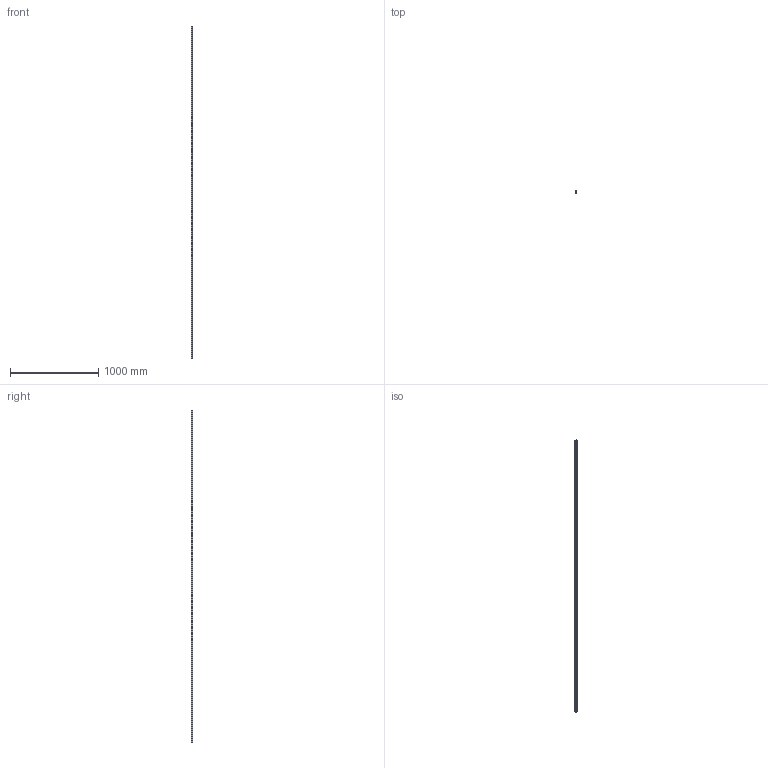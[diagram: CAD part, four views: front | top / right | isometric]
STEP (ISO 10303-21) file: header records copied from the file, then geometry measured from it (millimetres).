
FILE_DESCRIPTION (( 'STEP AP203' ), '1' );
FILE_NAME ('L1016.BL20-3760.step', '2019-06-12T11:58:27', ( '' ), ( '' ), 'SwSTEP 2.0', 'SolidWorks 2017', '' );
FILE_SCHEMA (( 'CONFIG_CONTROL_DESIGN' ));
Length unit declared in the file: millimetre
Products named in the file (1): L1016.BL20-3760
Bounding box: 20 x 16.3 x 3760 mm (x, y, z)
Volume: 1045249 mm3; surface area: 302246.9 mm2
Topology: 1 solids, 1 shells, 341 faces, 828 edges, 552 vertices
Faces by surface type: cylinder 256, plane 85
Entity records: 10603 total; most frequent: DIRECTION 2024, CARTESIAN_POINT 1722, ORIENTED_EDGE 1656, AXIS2_PLACEMENT_3D 854, EDGE_CURVE 828, VERTEX_POINT 552, EDGE_LOOP 530, CIRCLE 512
